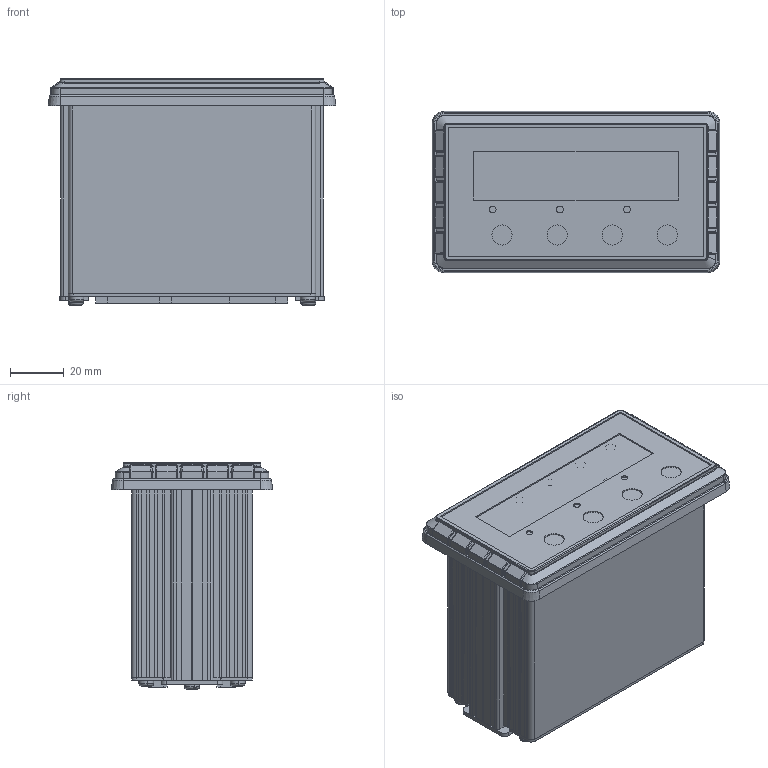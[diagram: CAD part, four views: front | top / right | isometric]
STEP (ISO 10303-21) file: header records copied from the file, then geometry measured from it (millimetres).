
FILE_DESCRIPTION (( 'STEP AP214' ), '1' );
FILE_NAME ('P1.STEP', '2021-12-06T09:28:04', ( '' ), ( '' ), 'SwSTEP 2.0', 'SolidWorks 2019', '' );
FILE_SCHEMA (( 'AUTOMOTIVE_DESIGN' ));
Length unit declared in the file: millimetre
Products named in the file (17): ____2.STEP; ____3.STEP; ________-1.STEP; M3x8____________.STEP; ____SLDPRT.STEP; ____-2.STEP; ____1.STEP; ______-4.STEP; P1; (______)_ ____.STEP; ____________-3.STEP; ______.STEP; ____4.STEP; 躇猾蚾饜1.STEP; ________.STEP; ______-0.STEP; ____.STEP
Assembly tree (26 placements, depth 3):
  P1
    躇猾蚾饜1.STEP
      (______)_ ____.STEP
      ____________-3.STEP
      ______-4.STEP
      M3x8____________.STEP  x3
      ____.STEP
      ______.STEP  x2
      ____SLDPRT.STEP  x2
      ______-0.STEP
      ________.STEP  x4
      ________-1.STEP  x4
      ____1.STEP
      ____2.STEP
      ____3.STEP
      ____4.STEP
      ____-2.STEP
Bounding box: 107 x 60 x 84.2 mm (x, y, z)
Volume: 75169.5 mm3; surface area: 103205.3 mm2
Topology: 31 solids, 31 shells, 1853 faces, 5010 edges, 3230 vertices
Faces by surface type: plane 893, cylinder 665, bspline 171, cone 54, torus 54, sphere 16
Entity records: 52697 total; most frequent: CARTESIAN_POINT 18634, ORIENTED_EDGE 7296, DIRECTION 6526, EDGE_CURVE 3648, VERTEX_POINT 2344, VECTOR 2320, LINE 2320, AXIS2_PLACEMENT_3D 2103
